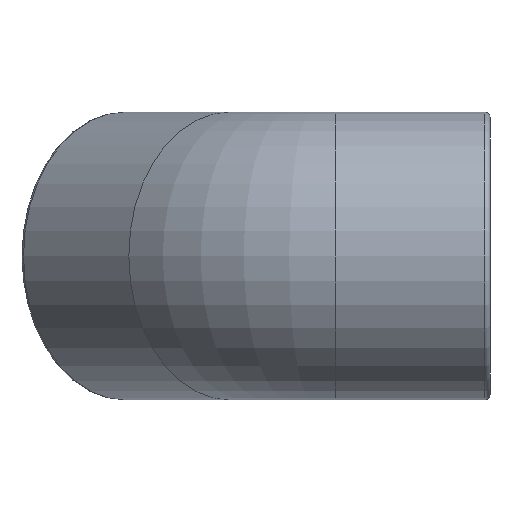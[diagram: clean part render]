
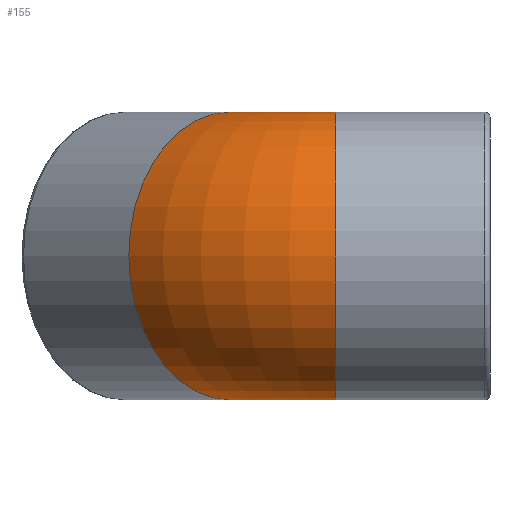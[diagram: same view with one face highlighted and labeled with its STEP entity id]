
A CAD part, left-side view. The second image highlights one B-rep face of the part: STEP entity #155.
In plain terms, the highlighted toroidal (fillet/blend) face has major radius 14.5 mm and minor radius 14 mm.
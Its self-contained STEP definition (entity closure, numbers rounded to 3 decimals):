
#39=FACE_BOUND('',#75,.T.);
#51=FACE_OUTER_BOUND('',#74,.T.);
#74=EDGE_LOOP('',(#138));
#75=EDGE_LOOP('',(#139));
#78=CIRCLE('',#162,14.);
#82=CIRCLE('',#169,14.);
#88=VERTEX_POINT('',#237);
#92=VERTEX_POINT('',#248);
#100=EDGE_CURVE('',#88,#88,#78,.T.);
#104=EDGE_CURVE('',#92,#92,#82,.T.);
#138=ORIENTED_EDGE('',*,*,#104,.F.);
#139=ORIENTED_EDGE('',*,*,#100,.T.);
#143=TOROIDAL_SURFACE('',#180,14.5,14.);
#155=ADVANCED_FACE('',(#51,#39),#143,.T.);
#162=AXIS2_PLACEMENT_3D('',#238,#191,#192);
#169=AXIS2_PLACEMENT_3D('',#249,#205,#206);
#180=AXIS2_PLACEMENT_3D('',#398,#228,#229);
#191=DIRECTION('center_axis',(0.,1.,0.));
#192=DIRECTION('ref_axis',(1.,0.,0.));
#205=DIRECTION('center_axis',(0.707,0.707,0.));
#206=DIRECTION('ref_axis',(0.707,-0.707,0.));
#228=DIRECTION('center_axis',(0.,0.,-1.));
#229=DIRECTION('ref_axis',(-1.,0.,0.));
#237=CARTESIAN_POINT('',(-14.,14.994,0.));
#238=CARTESIAN_POINT('Origin',(0.,14.994,0.));
#248=CARTESIAN_POINT('',(-5.653,35.146,0.));
#249=CARTESIAN_POINT('Origin',(4.247,25.247,0.));
#398=CARTESIAN_POINT('Origin',(14.5,14.994,0.));
